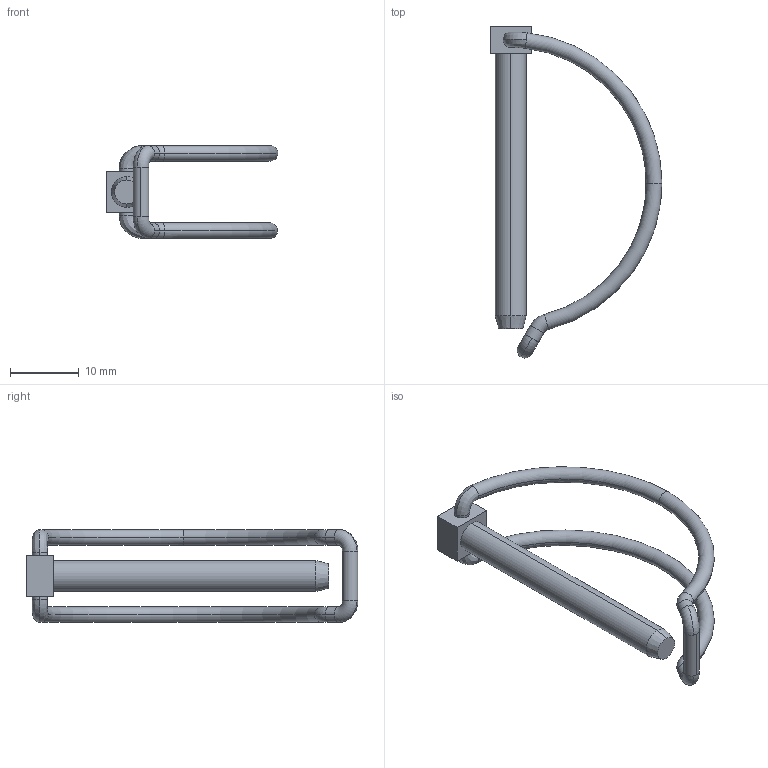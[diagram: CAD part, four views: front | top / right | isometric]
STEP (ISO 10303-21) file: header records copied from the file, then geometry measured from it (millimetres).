
FILE_DESCRIPTION (( 'STEP AP203' ), '1' );
FILE_NAME ('33320.W0042.step', '2025-02-04T13:40:01', ( '' ), ( '' ), 'SwSTEP 2.0', 'SolidWorks 2019', '' );
FILE_SCHEMA (( 'CONFIG_CONTROL_DESIGN' ));
Length unit declared in the file: millimetre
Products named in the file (3): Part5_33320.W0042; 33320.W0042; part1_33320.W0042
Assembly tree (2 placements, depth 2):
  33320.W0042
    part1_33320.W0042
    Part5_33320.W0042
Bounding box: 24.96 x 48.24 x 13.5 mm (x, y, z)
Volume: 1337.1 mm3; surface area: 1810.8 mm2
Topology: 2 solids, 2 shells, 43 faces, 98 edges, 60 vertices
Faces by surface type: cylinder 14, torus 14, plane 9, bspline 4, cone 2
Entity records: 1827 total; most frequent: CARTESIAN_POINT 518, DIRECTION 248, ORIENTED_EDGE 196, AXIS2_PLACEMENT_3D 110, EDGE_CURVE 98, CIRCLE 66, VERTEX_POINT 60, EDGE_LOOP 46
